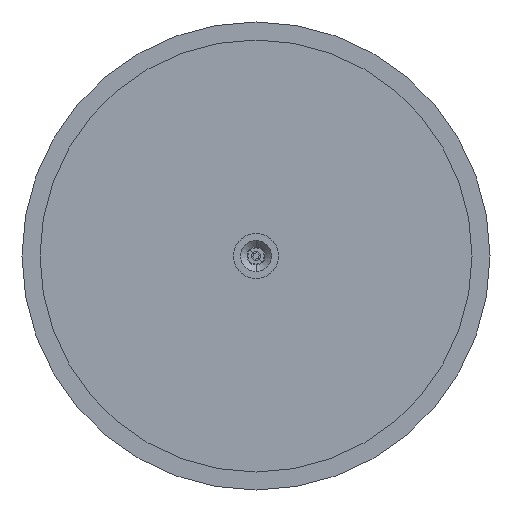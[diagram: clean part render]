
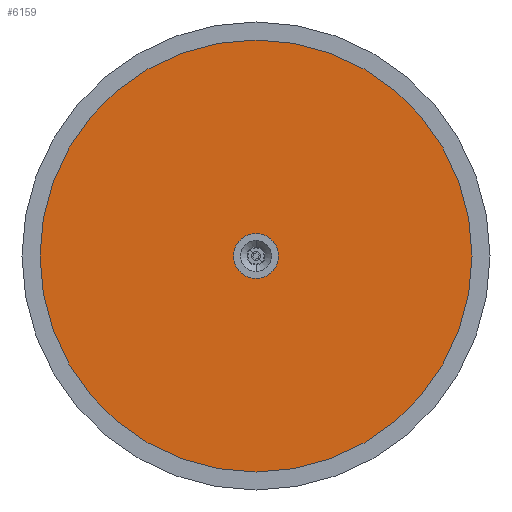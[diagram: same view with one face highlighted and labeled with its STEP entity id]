
A CAD part, front view. The second image highlights one B-rep face of the part: STEP entity #6159.
In plain terms, the highlighted planar face has unit normal (0, -1, 0).
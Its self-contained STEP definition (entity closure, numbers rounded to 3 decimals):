
#205 = CARTESIAN_POINT ( 'NONE',  ( 0., 0., -120. ) ) ;
#262 = CARTESIAN_POINT ( 'NONE',  ( 0., 0., 12.5 ) ) ;
#540 = DIRECTION ( 'NONE',  ( 0., 1., 0. ) ) ;
#688 = AXIS2_PLACEMENT_3D ( 'NONE', #739, #6397, #8148 ) ;
#739 = CARTESIAN_POINT ( 'NONE',  ( 0., 0., 0. ) ) ;
#991 = DIRECTION ( 'NONE',  ( 0., 1., 0. ) ) ;
#1250 = EDGE_CURVE ( 'NONE', #9515, #7627, #5851, .T. ) ;
#1279 = EDGE_CURVE ( 'NONE', #2627, #6445, #7546, .T. ) ;
#1440 = CARTESIAN_POINT ( 'NONE',  ( 0., 0., 0. ) ) ;
#1561 = FACE_OUTER_BOUND ( 'NONE', #2032, .T. ) ;
#2032 = EDGE_LOOP ( 'NONE', ( #7758, #8522 ) ) ;
#2627 = VERTEX_POINT ( 'NONE', #262 ) ;
#2684 = CARTESIAN_POINT ( 'NONE',  ( 0., 0., 0. ) ) ;
#3595 = DIRECTION ( 'NONE',  ( 0., 1., 0. ) ) ;
#3636 = CARTESIAN_POINT ( 'NONE',  ( 0., 0., 0. ) ) ;
#4298 = AXIS2_PLACEMENT_3D ( 'NONE', #1440, #540, #8925 ) ;
#4828 = FACE_BOUND ( 'NONE', #5194, .T. ) ;
#4882 = AXIS2_PLACEMENT_3D ( 'NONE', #2684, #991, #7743 ) ;
#5037 = CARTESIAN_POINT ( 'NONE',  ( 0., 0., -12.5 ) ) ;
#5194 = EDGE_LOOP ( 'NONE', ( #10001, #9932 ) ) ;
#5851 = CIRCLE ( 'NONE', #7667, 120. ) ;
#6159 = ADVANCED_FACE ( 'NONE', ( #1561, #4828 ), #8783, .F. ) ;
#6252 = EDGE_CURVE ( 'NONE', #7627, #9515, #8464, .T. ) ;
#6354 = CARTESIAN_POINT ( 'NONE',  ( 0., 0., 0. ) ) ;
#6359 = CIRCLE ( 'NONE', #688, 12.5 ) ;
#6397 = DIRECTION ( 'NONE',  ( 0., 1., 0. ) ) ;
#6445 = VERTEX_POINT ( 'NONE', #5037 ) ;
#6884 = EDGE_CURVE ( 'NONE', #6445, #2627, #6359, .T. ) ;
#7362 = CARTESIAN_POINT ( 'NONE',  ( 0., 0., 120. ) ) ;
#7426 = AXIS2_PLACEMENT_3D ( 'NONE', #6354, #8852, #9601 ) ;
#7546 = CIRCLE ( 'NONE', #4882, 12.5 ) ;
#7627 = VERTEX_POINT ( 'NONE', #7362 ) ;
#7667 = AXIS2_PLACEMENT_3D ( 'NONE', #3636, #3595, #10108 ) ;
#7743 = DIRECTION ( 'NONE',  ( 0., 0., 1. ) ) ;
#7758 = ORIENTED_EDGE ( 'NONE', *, *, #1250, .F. ) ;
#8148 = DIRECTION ( 'NONE',  ( 0., 0., 1. ) ) ;
#8464 = CIRCLE ( 'NONE', #4298, 120. ) ;
#8522 = ORIENTED_EDGE ( 'NONE', *, *, #6252, .F. ) ;
#8783 = PLANE ( 'NONE',  #7426 ) ;
#8852 = DIRECTION ( 'NONE',  ( 0., 1., 0. ) ) ;
#8925 = DIRECTION ( 'NONE',  ( 0., 0., 1. ) ) ;
#9515 = VERTEX_POINT ( 'NONE', #205 ) ;
#9601 = DIRECTION ( 'NONE',  ( 0., 0., 1. ) ) ;
#9932 = ORIENTED_EDGE ( 'NONE', *, *, #1279, .T. ) ;
#10001 = ORIENTED_EDGE ( 'NONE', *, *, #6884, .T. ) ;
#10108 = DIRECTION ( 'NONE',  ( 0., 0., 1. ) ) ;
